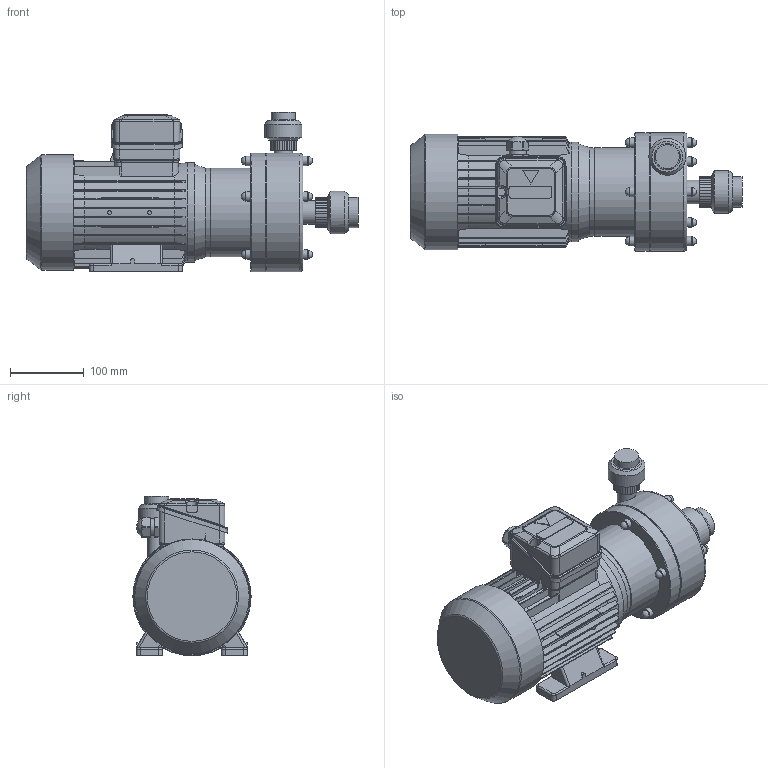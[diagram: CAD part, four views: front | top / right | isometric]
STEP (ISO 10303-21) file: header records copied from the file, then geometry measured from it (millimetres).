
FILE_DESCRIPTION(/* description */ (''),/* implementation_level */ '2;1');
FILE_NAME(/* name */ 'C:\Users\tarpo\OneDrive\Masaüstü\Pompalar Resimler ve Cad Dosyalar\315 B\315 B .stp',/* time_stamp */ '2024-07-12T10:59:40+03:00',/* author */ ('tarpo'),/* organization */ (''),/* preprocessor_version */ 'ST-DEVELOPER v18',/* originating_system */ 'Autodesk Inventor 2020',/* authorisation */ '');
FILE_SCHEMA (('CONFIG_CONTROL_DESIGN'));
Length unit declared in the file: millimetre
Products named in the file (1): 316 A_Shrinkwrap_1
Bounding box: 449 x 160 x 215.7 mm (x, y, z)
Volume: 7002235.3 mm3; surface area: 502033.3 mm2
Topology: 20 solids, 20 shells, 748 faces, 2079 edges, 1388 vertices
Faces by surface type: plane 355, cylinder 241, bspline 64, cone 57, torus 20, sphere 11
Full cylindrical faces by diameter (mm): 1.381 x1, 1.382 x1, 1.483 x2, 5 x4, 12.9 x10, 19 x1, 23 x1, 25 x1, 32 x1, 32.5 x1, 35.6 x1, 38.7 x1, 38.952 x1, 40.9 x1, 41.4 x1, 41.91 x1, 44.7 x1, 44.845 x1, 47.803 x1, 50 x1, 57.5 x1, 76 x1, 80 x1, 107 x1, 119.6 x1, 120 x2, 135 x1, 156 x1, 160 x2
Entity records: 29480 total; most frequent: CARTESIAN_POINT 9651, ORIENTED_EDGE 4134, DIRECTION 3906, EDGE_CURVE 2067, AXIS2_PLACEMENT_3D 1479, VERTEX_POINT 1388, LINE 948, VECTOR 948
